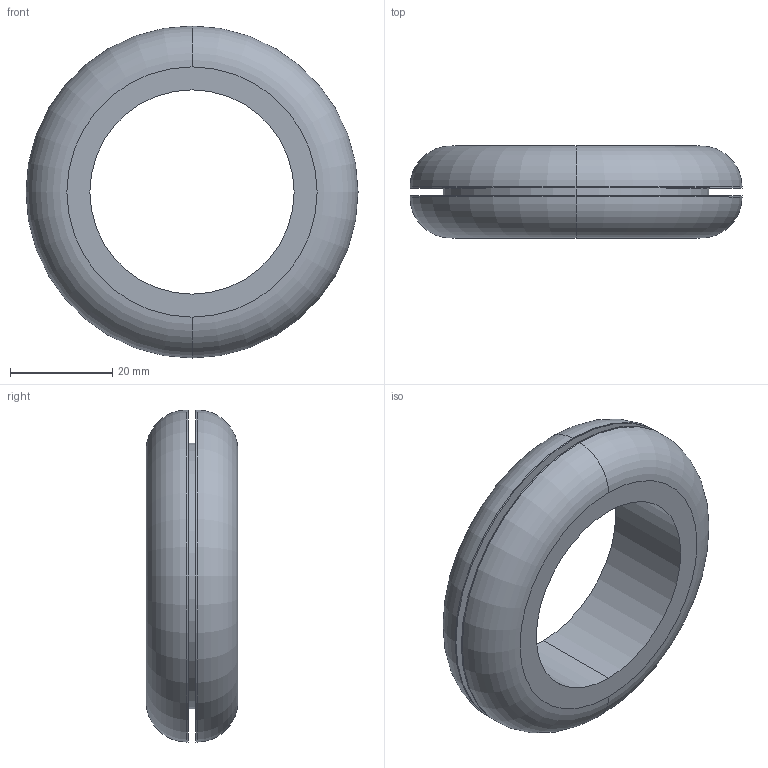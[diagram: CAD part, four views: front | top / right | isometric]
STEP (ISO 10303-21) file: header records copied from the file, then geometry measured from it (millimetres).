
FILE_DESCRIPTION (( 'STEP AP203' ), '1' );
FILE_NAME ('B-40-1.5.STEP', '2013-08-03T02:27:16', ( 'SDS' ), ( 'SDS' ), 'SwSTEP 2.0', 'SolidWorks 2002296', '' );
FILE_SCHEMA (( 'CONFIG_CONTROL_DESIGN' ));
Length unit declared in the file: millimetre
Products named in the file (1): B-40-1.5
Bounding box: 65 x 18 x 65 mm (x, y, z)
Volume: 30017.3 mm3; surface area: 10929.6 mm2
Topology: 1 solids, 1 shells, 16 faces, 32 edges, 20 vertices
Faces by surface type: cylinder 8, plane 4, torus 4
Entity records: 509 total; most frequent: DIRECTION 90, CARTESIAN_POINT 69, ORIENTED_EDGE 64, AXIS2_PLACEMENT_3D 41, EDGE_CURVE 32, CIRCLE 24, EDGE_LOOP 20, VERTEX_POINT 20
